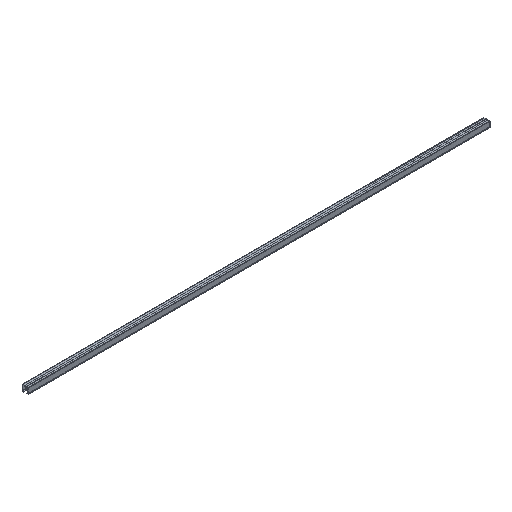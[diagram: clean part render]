
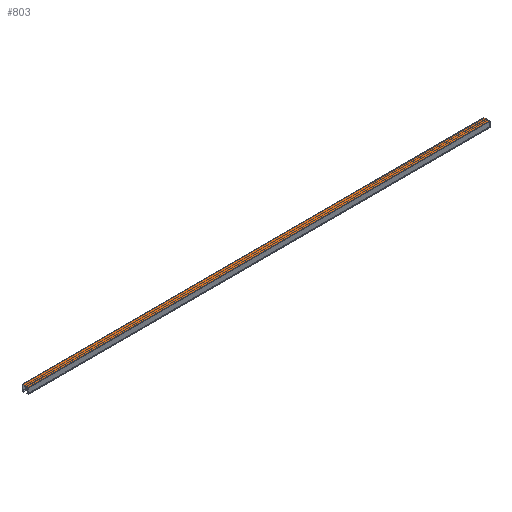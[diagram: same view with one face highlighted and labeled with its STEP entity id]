
A CAD part, isometric view. The second image highlights one B-rep face of the part: STEP entity #803.
In plain terms, the highlighted planar face has unit normal (0, 0, 1).
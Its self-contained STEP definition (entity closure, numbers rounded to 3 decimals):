
#803=ADVANCED_FACE('',(#1446),#1447,.F.);
#1446=FACE_OUTER_BOUND('',#2297,.T.);
#1447=PLANE('',#2298);
#2297=EDGE_LOOP('',(#3115,#3116,#3117,#3118));
#2298=AXIS2_PLACEMENT_3D('',#3119,#3120,#3121);
#3115=ORIENTED_EDGE('',*,*,#4050,.T.);
#3116=ORIENTED_EDGE('',*,*,#4051,.F.);
#3117=ORIENTED_EDGE('',*,*,#4052,.T.);
#3118=ORIENTED_EDGE('',*,*,#4048,.T.);
#3119=CARTESIAN_POINT('',(0.0,-30.5,0.0));
#3120=DIRECTION('',(0.0,0.0,-1.0));
#3121=DIRECTION('',(0.0,1.0,0.0));
#4048=EDGE_CURVE('',#4743,#4745,#4747,.T.);
#4050=EDGE_CURVE('',#4745,#4749,#4750,.T.);
#4051=EDGE_CURVE('',#4751,#4749,#4752,.T.);
#4052=EDGE_CURVE('',#4751,#4743,#4753,.T.);
#4743=VERTEX_POINT('',#5397);
#4745=VERTEX_POINT('',#5400);
#4747=LINE('',#5403,#5404);
#4749=VERTEX_POINT('',#5406);
#4750=LINE('',#5407,#5408);
#4751=VERTEX_POINT('',#5409);
#4752=LINE('',#5410,#5411);
#4753=LINE('',#5412,#5413);
#5397=CARTESIAN_POINT('',(0.0,-15.5,0.0));
#5400=CARTESIAN_POINT('',(2500.0,-15.5,0.0));
#5403=CARTESIAN_POINT('',(-58.157,-15.5,0.0));
#5404=VECTOR('',#5893,1.0);
#5406=CARTESIAN_POINT('',(2500.0,15.5,0.0));
#5407=CARTESIAN_POINT('',(2500.0,0.0,0.0));
#5408=VECTOR('',#5894,1.0);
#5409=CARTESIAN_POINT('',(0.0,15.5,0.0));
#5410=CARTESIAN_POINT('',(-58.157,15.5,0.0));
#5411=VECTOR('',#5895,1.0);
#5412=CARTESIAN_POINT('',(0.0,-16.5,0.0));
#5413=VECTOR('',#5896,1.0);
#5893=DIRECTION('',(1.0,0.0,0.0));
#5894=DIRECTION('',(0.0,1.0,0.0));
#5895=DIRECTION('',(1.0,0.0,0.0));
#5896=DIRECTION('',(0.0,-1.0,0.0));
